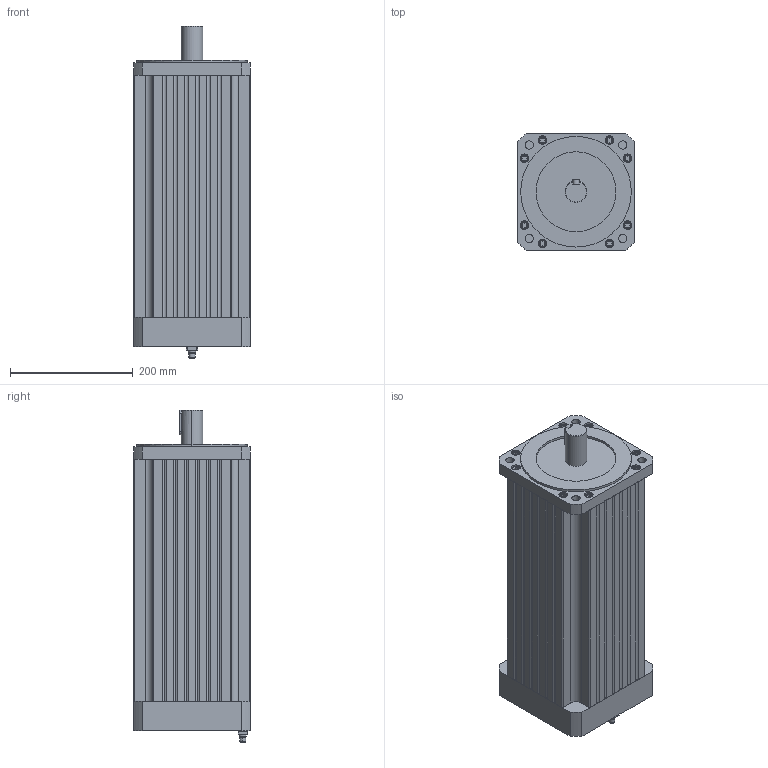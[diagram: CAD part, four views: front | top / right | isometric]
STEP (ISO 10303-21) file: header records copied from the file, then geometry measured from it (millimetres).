
FILE_DESCRIPTION (( 'STEP AP203' ), '1' );
FILE_NAME ('BTS190-43D3AC-EXD.STEP', '2023-06-01T06:16:49', ( 'Admin' ), ( '' ), 'SwSTEP 2.0', 'SolidWorks 2021', '' );
FILE_SCHEMA (( 'CONFIG_CONTROL_DESIGN' ));
Length unit declared in the file: millimetre
Products named in the file (1): BTS190-43D3AC-EXD
Bounding box: 190 x 190 x 540 mm (x, y, z)
Volume: 15167845.9 mm3; surface area: 602009.7 mm2
Topology: 15 solids, 16 shells, 516 faces, 1248 edges, 804 vertices
Faces by surface type: plane 287, cylinder 174, torus 34, cone 21
Entity records: 15048 total; most frequent: DIRECTION 2679, CARTESIAN_POINT 2595, ORIENTED_EDGE 2460, EDGE_CURVE 1230, AXIS2_PLACEMENT_3D 936, LINE 807, VECTOR 807, VERTEX_POINT 804
